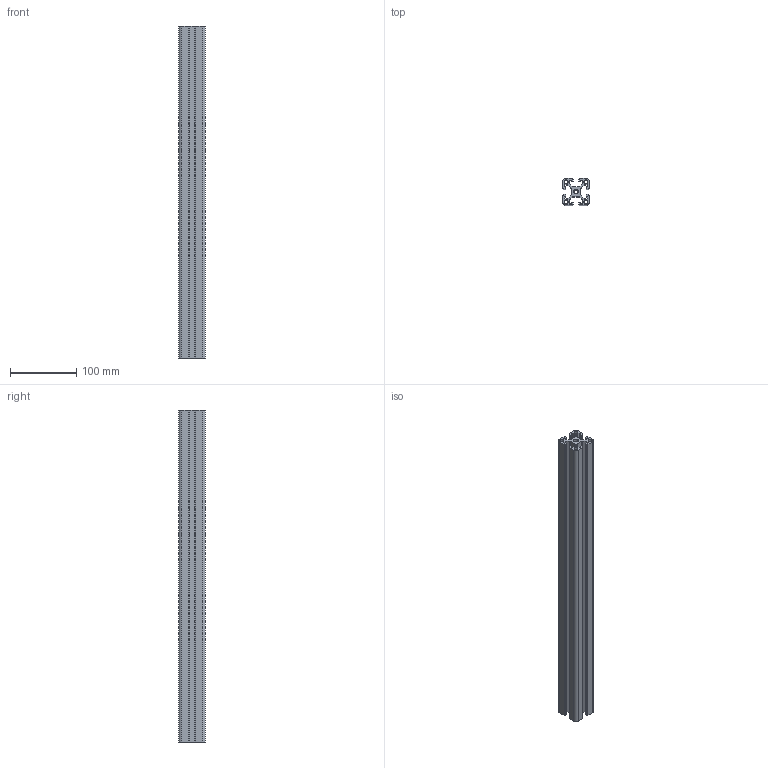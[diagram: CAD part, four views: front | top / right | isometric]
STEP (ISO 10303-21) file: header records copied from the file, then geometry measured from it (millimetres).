
FILE_DESCRIPTION (( 'STEP AP203' ), '1' );
FILE_NAME ('CE-4040Y-8(加厚）.STEP', '2023-07-07T05:53:31', ( '微软用户' ), ( '微软中国' ), 'SwSTEP 2.0', 'SolidWorks 2017', '' );
FILE_SCHEMA (( 'CONFIG_CONTROL_DESIGN' ));
Length unit declared in the file: millimetre
Products named in the file (1): CE-4040Y-8(加厚）
Bounding box: 40 x 40 x 500 mm (x, y, z)
Volume: 335869.6 mm3; surface area: 222637.9 mm2
Topology: 1 solids, 1 shells, 164 faces, 486 edges, 324 vertices
Faces by surface type: cylinder 86, plane 78
Entity records: 5639 total; most frequent: DIRECTION 988, CARTESIAN_POINT 975, ORIENTED_EDGE 972, EDGE_CURVE 486, AXIS2_PLACEMENT_3D 337, VERTEX_POINT 324, LINE 314, VECTOR 314
